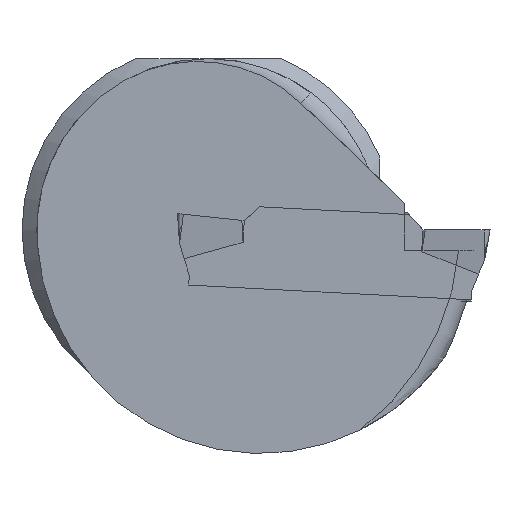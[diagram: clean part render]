
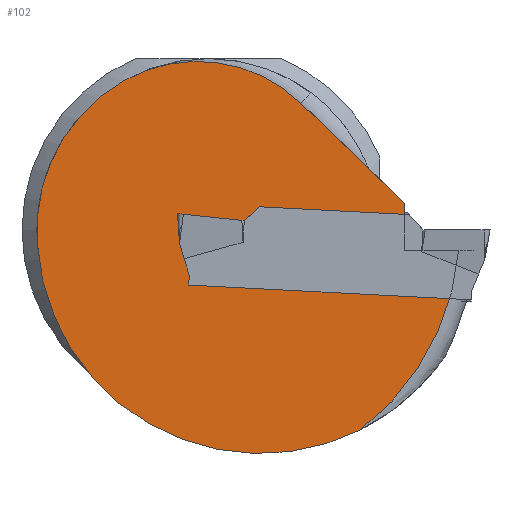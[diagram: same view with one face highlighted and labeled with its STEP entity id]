
A CAD part, left-side view. The second image highlights one B-rep face of the part: STEP entity #102.
In plain terms, the highlighted planar face has unit normal (-1, 0, 0).
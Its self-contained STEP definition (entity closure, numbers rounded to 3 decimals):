
#102=ADVANCED_FACE('',(#190),#156,.T.);
#156=PLANE('',#948);
#190=FACE_OUTER_BOUND('',#238,.T.);
#238=EDGE_LOOP('',(#319,#320,#321,#322,#323,#324,#325,#326));
#297=CIRCLE('',#944,10.);
#298=CIRCLE('',#945,11.5);
#299=CIRCLE('',#946,15.);
#300=CIRCLE('',#947,16.85);
#319=ORIENTED_EDGE('',*,*,#656,.T.);
#320=ORIENTED_EDGE('',*,*,#657,.T.);
#321=ORIENTED_EDGE('',*,*,#658,.F.);
#322=ORIENTED_EDGE('',*,*,#659,.F.);
#323=ORIENTED_EDGE('',*,*,#660,.T.);
#324=ORIENTED_EDGE('',*,*,#661,.T.);
#325=ORIENTED_EDGE('',*,*,#662,.F.);
#326=ORIENTED_EDGE('',*,*,#663,.T.);
#573=VERTEX_POINT('',#1244);
#574=VERTEX_POINT('',#1245);
#575=VERTEX_POINT('',#1247);
#576=VERTEX_POINT('',#1249);
#577=VERTEX_POINT('',#1251);
#578=VERTEX_POINT('',#1253);
#579=VERTEX_POINT('',#1255);
#580=VERTEX_POINT('',#1257);
#656=EDGE_CURVE('',#573,#574,#783,.T.);
#657=EDGE_CURVE('',#574,#575,#297,.T.);
#658=EDGE_CURVE('',#576,#575,#298,.T.);
#659=EDGE_CURVE('',#577,#576,#784,.T.);
#660=EDGE_CURVE('',#577,#578,#299,.T.);
#661=EDGE_CURVE('',#578,#579,#300,.T.);
#662=EDGE_CURVE('',#580,#579,#785,.T.);
#663=EDGE_CURVE('',#580,#573,#786,.T.);
#783=LINE('',#1243,#863);
#784=LINE('',#1250,#864);
#785=LINE('',#1256,#865);
#786=LINE('',#1258,#866);
#863=VECTOR('',#1018,1.);
#864=VECTOR('',#1023,1.);
#865=VECTOR('',#1028,1.);
#866=VECTOR('',#1029,1.);
#944=AXIS2_PLACEMENT_3D('',#1246,#1019,#1020);
#945=AXIS2_PLACEMENT_3D('',#1248,#1021,#1022);
#946=AXIS2_PLACEMENT_3D('',#1252,#1024,#1025);
#947=AXIS2_PLACEMENT_3D('',#1254,#1026,#1027);
#948=AXIS2_PLACEMENT_3D('',#1259,#1030,#1031);
#1018=DIRECTION('',(0.,0.719,0.695));
#1019=DIRECTION('',(-1.,0.,0.));
#1020=DIRECTION('',(0.,-1.,0.));
#1021=DIRECTION('',(1.,0.,0.));
#1022=DIRECTION('',(0.,0.,1.));
#1023=DIRECTION('',(0.,-1.,0.));
#1024=DIRECTION('',(-1.,0.,0.));
#1025=DIRECTION('',(0.,0.,1.));
#1026=DIRECTION('',(-1.,0.,0.));
#1027=DIRECTION('',(0.,0.,1.));
#1028=DIRECTION('',(0.,-1.,0.));
#1029=DIRECTION('',(0.,0.,1.));
#1030=DIRECTION('',(-1.,0.,0.));
#1031=DIRECTION('',(0.,0.,1.));
#1243=CARTESIAN_POINT('',(0.35,5.725,1.783));
#1244=CARTESIAN_POINT('',(0.35,5.725,1.783));
#1245=CARTESIAN_POINT('',(0.35,12.684,8.504));
#1246=CARTESIAN_POINT('',(0.35,19.63,1.31));
#1247=CARTESIAN_POINT('',(0.35,24.499,10.045));
#1248=CARTESIAN_POINT('',(0.35,18.9,0.));
#1249=CARTESIAN_POINT('',(0.35,30.356,-1.));
#1250=CARTESIAN_POINT('',(0.35,0.9,-1.));
#1251=CARTESIAN_POINT('',(0.35,30.367,-1.));
#1252=CARTESIAN_POINT('',(0.35,15.4,0.));
#1253=CARTESIAN_POINT('',(0.35,8.733,-13.437));
#1254=CARTESIAN_POINT('',(0.35,18.9,0.));
#1255=CARTESIAN_POINT('',(0.35,2.106,-1.367));
#1256=CARTESIAN_POINT('',(0.35,5.725,-1.367));
#1257=CARTESIAN_POINT('',(0.35,5.725,-1.367));
#1258=CARTESIAN_POINT('',(0.35,5.725,0.983));
#1259=CARTESIAN_POINT('',(0.35,0.9,0.));
